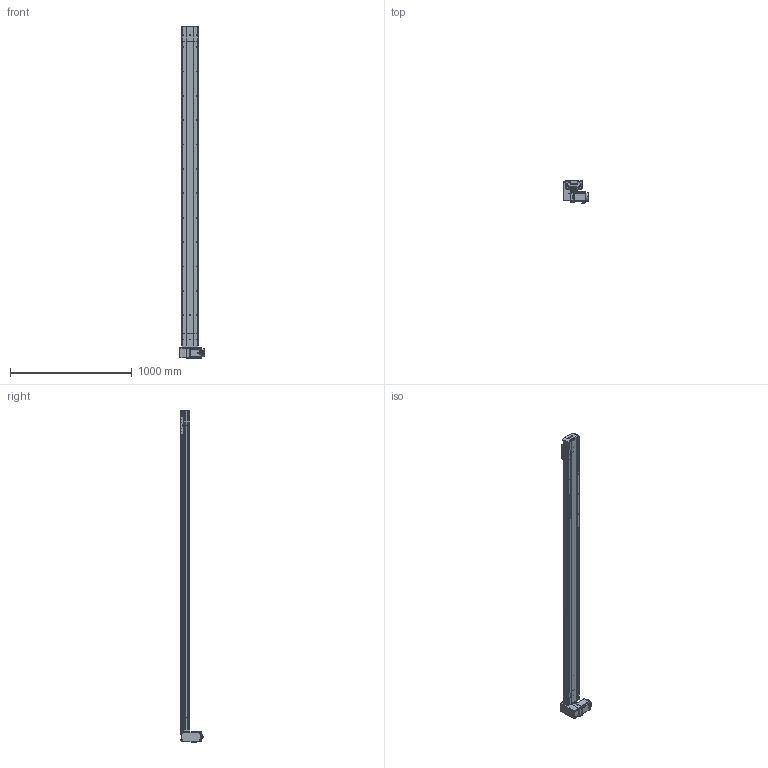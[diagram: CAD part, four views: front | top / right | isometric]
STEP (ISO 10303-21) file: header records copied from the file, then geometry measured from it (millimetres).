
FILE_DESCRIPTION (( 'STEP AP214' ), '1' );
FILE_NAME ('D14 TBH RU S2400.STEP', '2010-06-29T14:28:57', ( 'Conseil Régional Haute-Normandie' ), ( 'Conseil Régional Haute-Normandie' ), 'SwSTEP 2.0', 'SolidWorks 2010', '' );
FILE_SCHEMA (( 'AUTOMOTIVE_DESIGN' ));
Length unit declared in the file: millimetre
Products named in the file (39): tete d''axe haut D14; vis M5 L16_Default; Arbre+rail tail D14; couvercle D14_Default; vis M5 L12_Default; guide D14; Chariot D14; chariot D14B_Default; Cvis M5 L70_Default; Vis M5 L16-2_Default; vis M5 L5_Default; renvoi RH_Default; Cache arbre_Default; corp head D14_Default; corpl tail D14_Default; Cache_Default; Arbre+rail head D14; vis M5 L8 90°_Default; poulie head_Default; poulie tail_Default; plaque de  bout tail D14_Default; couroie 2_Default; plaque de  bout head D14 RU_Default; D14 TBH RU S2400; D14 couroie L2400_Default; Couroie_Default; D14 TB H RU_Default; couvercle D14 head_Default; corpl 2400_Default; Moteur motionking 90BLDC100A-640; Conecteur_Default; Plaque racord D14_Default; avant 90BLDC100A-640; corps 90BLDC100A-640; codeur 90BLDC100-640; Rail + couroie D14 Course 2400 ; couvercle D14 course L2400_Default; Tail D14B_Default; Conecteur2_Default
Assembly tree (68 placements, depth 4):
  D14 TBH RU S2400
    D14 couroie L2400_Default
      couvercle D14 course L2400_Default
      corpl 2400_Default
      Rail + couroie D14 Course 2400 
    Tail D14B_Default
      Arbre+rail tail D14
      tete d''axe haut D14
      Couroie_Default
      vis M5 L8 90°_Default  x2
      vis M5 L12_Default  x4
      corpl tail D14_Default
      couvercle D14_Default
      vis M5 L16_Default  x2
      poulie tail_Default
      plaque de  bout tail D14_Default
    D14 TB H RU_Default
      vis M5 L12_Default  x12
      Vis M5 L16-2_Default  x4
      vis M5 L5_Default  x2
      Cache_Default  x2
      Cvis M5 L70_Default  x4
      renvoi RH_Default
      Cache arbre_Default
      Moteur motionking 90BLDC100A-640
        corps 90BLDC100A-640
        Conecteur_Default
        Conecteur2_Default
        codeur 90BLDC100-640
        avant 90BLDC100A-640
      couvercle D14 head_Default
      plaque de  bout head D14 RU_Default
      Plaque racord D14_Default
      poulie head_Default
      corp head D14_Default
      Arbre+rail head D14
      couroie 2_Default
    chariot D14B_Default
      vis M5 L12_Default  x4
      guide D14  x2
      Chariot D14
Bounding box: 207.2 x 191.1 x 2725.75 mm (x, y, z)
Volume: 10339487.7 mm3; surface area: 3708046.3 mm2
Topology: 92 solids, 92 shells, 2725 faces, 6647 edges, 4290 vertices
Faces by surface type: plane 1613, cylinder 799, bspline 136, torus 89, cone 84, sphere 4
Entity records: 81980 total; most frequent: CARTESIAN_POINT 24001, ORIENTED_EDGE 10154, DIRECTION 10048, EDGE_CURVE 5077, AXIS2_PLACEMENT_3D 3351, LINE 3346, VECTOR 3346, VERTEX_POINT 3340
